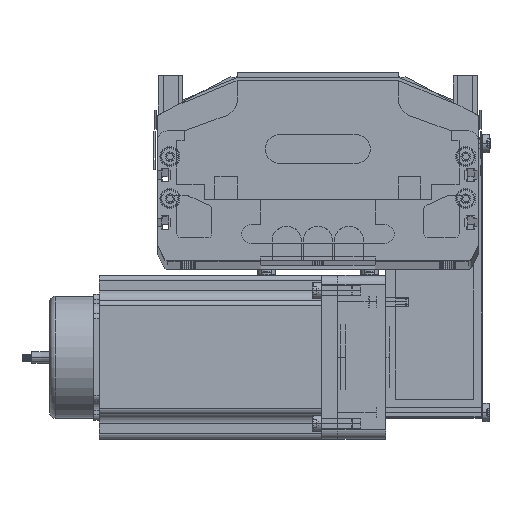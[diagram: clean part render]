
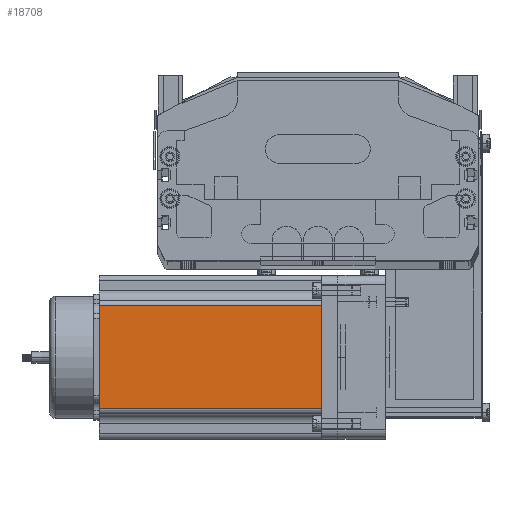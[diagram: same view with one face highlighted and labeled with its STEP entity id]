
A CAD part, top view. The second image highlights one B-rep face of the part: STEP entity #18708.
In plain terms, the highlighted planar face has unit normal (0, 0, 1) as drawn and (0, -1, 0) by its records, which use the part's own axes.
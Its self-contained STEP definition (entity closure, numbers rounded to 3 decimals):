
#18683 = EDGE_CURVE ( 'NONE', #18864, #18914, #42661, .T. ) ;
#18686 = VERTEX_POINT ( 'NONE', #42796 ) ;
#18688 = EDGE_CURVE ( 'NONE', #18686, #18704, #42794, .T. ) ;
#18690 = ORIENTED_EDGE ( 'NONE', *, *, #18688, .F. ) ;
#18692 = EDGE_CURVE ( 'NONE', #18686, #18864, #42674, .T. ) ;
#18694 = ORIENTED_EDGE ( 'NONE', *, *, #18692, .T. ) ;
#18704 = VERTEX_POINT ( 'NONE', #42684 ) ;
#18708 = ADVANCED_FACE ( 'NONE', ( #42682 ), #42687, .F. ) ;
#18709 = ORIENTED_EDGE ( 'NONE', *, *, #18710, .T. ) ;
#18710 = EDGE_CURVE ( 'NONE', #18914, #18704, #42630, .T. ) ;
#18864 = VERTEX_POINT ( 'NONE', #42833 ) ;
#18897 = EDGE_LOOP ( 'NONE', ( #18954, #18709, #18690, #18694 ) ) ;
#18914 = VERTEX_POINT ( 'NONE', #42953 ) ;
#18954 = ORIENTED_EDGE ( 'NONE', *, *, #18683, .T. ) ;
#42618 = DIRECTION ( 'NONE',  ( 0., 0., 1. ) ) ;
#42623 = DIRECTION ( 'NONE',  ( 0., 0., 1. ) ) ;
#42624 = DIRECTION ( 'NONE',  ( 0., 1., 0. ) ) ;
#42626 = CARTESIAN_POINT ( 'NONE',  ( 0., 0., 116.5 ) ) ;
#42627 = AXIS2_PLACEMENT_3D ( 'NONE', #42626, #42624, #42623 ) ;
#42628 = VECTOR ( 'NONE', #42618, 1000. ) ;
#42629 = CARTESIAN_POINT ( 'NONE',  ( 69.74, 0., 116.5 ) ) ;
#42630 = LINE ( 'NONE', #42629, #42628 ) ;
#42645 = CARTESIAN_POINT ( 'NONE',  ( 0., 0., 0. ) ) ;
#42661 = LINE ( 'NONE', #42645, #42798 ) ;
#42673 = CARTESIAN_POINT ( 'NONE',  ( 16.16, 0., 116.5 ) ) ;
#42674 = LINE ( 'NONE', #42673, #42817 ) ;
#42682 = FACE_OUTER_BOUND ( 'NONE', #18897, .T. ) ;
#42684 = CARTESIAN_POINT ( 'NONE',  ( 69.74, 0., 116.5 ) ) ;
#42687 = PLANE ( 'NONE',  #42627 ) ;
#42791 = DIRECTION ( 'NONE',  ( 1., 0., 0. ) ) ;
#42792 = VECTOR ( 'NONE', #42791, 1000. ) ;
#42793 = CARTESIAN_POINT ( 'NONE',  ( 0., 0., 116.5 ) ) ;
#42794 = LINE ( 'NONE', #42793, #42792 ) ;
#42796 = CARTESIAN_POINT ( 'NONE',  ( 16.16, 0., 116.5 ) ) ;
#42797 = DIRECTION ( 'NONE',  ( 1., 0., 0. ) ) ;
#42798 = VECTOR ( 'NONE', #42797, 1000. ) ;
#42816 = DIRECTION ( 'NONE',  ( 0., 0., -1. ) ) ;
#42817 = VECTOR ( 'NONE', #42816, 1000. ) ;
#42833 = CARTESIAN_POINT ( 'NONE',  ( 16.16, 0., 0. ) ) ;
#42953 = CARTESIAN_POINT ( 'NONE',  ( 69.74, 0., 0. ) ) ;
